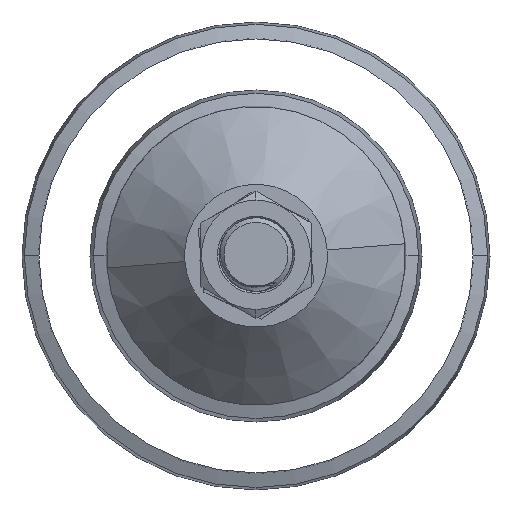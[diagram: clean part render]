
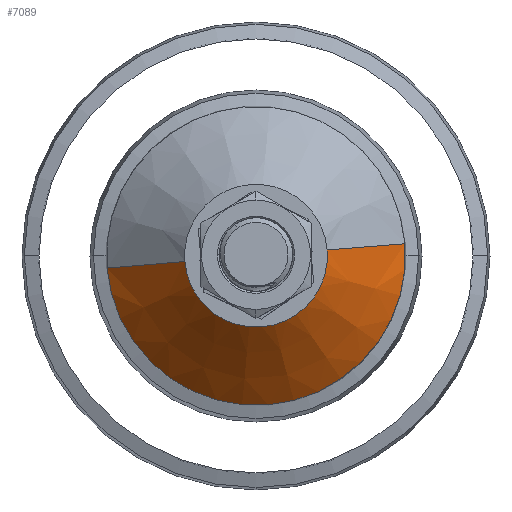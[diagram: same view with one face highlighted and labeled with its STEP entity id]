
A CAD part, top view. The second image highlights one B-rep face of the part: STEP entity #7089.
In plain terms, the highlighted conical face has half-angle 45 degrees and reference radius 14.567 mm.
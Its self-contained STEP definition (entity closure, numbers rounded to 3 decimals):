
#80 = VECTOR ( 'NONE', #13454, 1000. ) ;
#99 = VERTEX_POINT ( 'NONE', #9790 ) ;
#165 = LINE ( 'NONE', #3992, #11811 ) ;
#303 = CIRCLE ( 'NONE', #16421, 15.563 ) ;
#650 = DIRECTION ( 'NONE',  ( 1., 0., 0. ) ) ;
#2446 = CIRCLE ( 'NONE', #14005, 32.563 ) ;
#3114 = DIRECTION ( 'NONE',  ( 0., 0., -1. ) ) ;
#3238 = CARTESIAN_POINT ( 'NONE',  ( 14.567, 0., 30.497 ) ) ;
#3427 = EDGE_CURVE ( 'NONE', #5757, #8740, #303, .T. ) ;
#3914 = VERTEX_POINT ( 'NONE', #12806 ) ;
#3992 = CARTESIAN_POINT ( 'NONE',  ( -14.567, 0., 30.497 ) ) ;
#4103 = EDGE_CURVE ( 'NONE', #5757, #99, #15118, .T. ) ;
#4205 = EDGE_LOOP ( 'NONE', ( #4537, #7331, #5800, #13024 ) ) ;
#4278 = CARTESIAN_POINT ( 'NONE',  ( 0., 0., 29.5 ) ) ;
#4537 = ORIENTED_EDGE ( 'NONE', *, *, #4103, .F. ) ;
#4950 = AXIS2_PLACEMENT_3D ( 'NONE', #10337, #3114, #11860 ) ;
#5726 = DIRECTION ( 'NONE',  ( -1., 0., 0. ) ) ;
#5757 = VERTEX_POINT ( 'NONE', #7010 ) ;
#5800 = ORIENTED_EDGE ( 'NONE', *, *, #9954, .T. ) ;
#7010 = CARTESIAN_POINT ( 'NONE',  ( 15.563, 0., 29.5 ) ) ;
#7089 = ADVANCED_FACE ( 'NONE', ( #17537 ), #9316, .T. ) ;
#7331 = ORIENTED_EDGE ( 'NONE', *, *, #3427, .T. ) ;
#7520 = CARTESIAN_POINT ( 'NONE',  ( -15.563, 0., 29.5 ) ) ;
#8252 = EDGE_CURVE ( 'NONE', #3914, #99, #2446, .T. ) ;
#8740 = VERTEX_POINT ( 'NONE', #7520 ) ;
#9316 = CONICAL_SURFACE ( 'NONE', #4950, 14.567, 0.785 ) ;
#9388 = DIRECTION ( 'NONE',  ( 0., 0., 1. ) ) ;
#9790 = CARTESIAN_POINT ( 'NONE',  ( 32.563, 0., 12.5 ) ) ;
#9954 = EDGE_CURVE ( 'NONE', #8740, #3914, #165, .T. ) ;
#10337 = CARTESIAN_POINT ( 'NONE',  ( 0., 0., 30.497 ) ) ;
#11811 = VECTOR ( 'NONE', #14203, 1000. ) ;
#11860 = DIRECTION ( 'NONE',  ( -1., 0., 0. ) ) ;
#12806 = CARTESIAN_POINT ( 'NONE',  ( -32.563, 0., 12.5 ) ) ;
#13024 = ORIENTED_EDGE ( 'NONE', *, *, #8252, .T. ) ;
#13454 = DIRECTION ( 'NONE',  ( 0.707, 0., -0.707 ) ) ;
#14005 = AXIS2_PLACEMENT_3D ( 'NONE', #18118, #9388, #650 ) ;
#14203 = DIRECTION ( 'NONE',  ( -0.707, 0., -0.707 ) ) ;
#14494 = DIRECTION ( 'NONE',  ( 0., 0., -1. ) ) ;
#15118 = LINE ( 'NONE', #3238, #80 ) ;
#16421 = AXIS2_PLACEMENT_3D ( 'NONE', #4278, #14494, #5726 ) ;
#17537 = FACE_OUTER_BOUND ( 'NONE', #4205, .T. ) ;
#18118 = CARTESIAN_POINT ( 'NONE',  ( 0., 0., 12.5 ) ) ;
